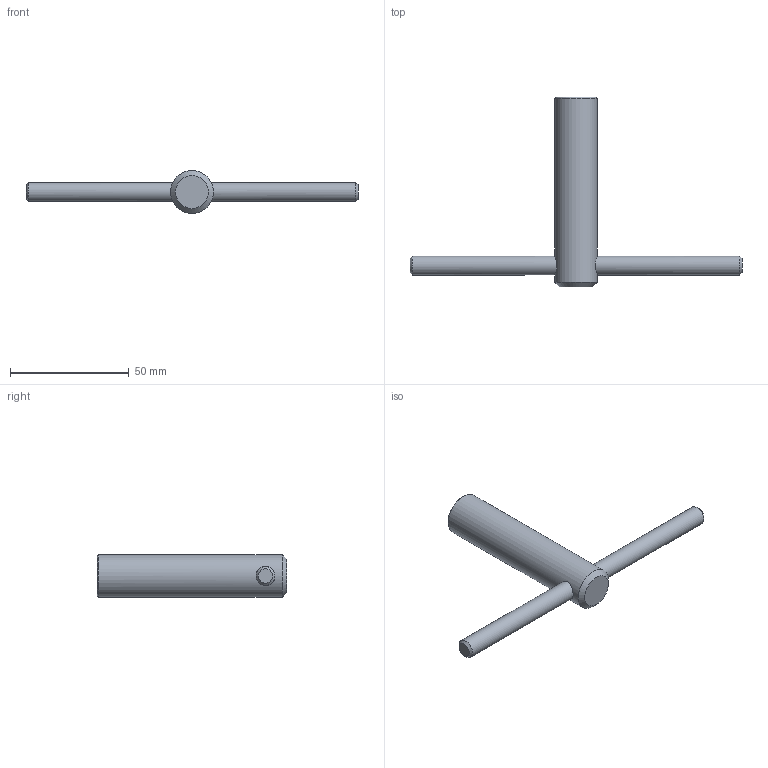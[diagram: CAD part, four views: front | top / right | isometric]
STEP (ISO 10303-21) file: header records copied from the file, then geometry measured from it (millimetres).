
FILE_DESCRIPTION(/* description */ (''),/* implementation_level */ '2;1');
FILE_NAME(/* name */ '\\DC01\Daten\CAD\Standard\Daten\3D-Datenbank\SWS\4 - 3D-CAD-Daten SWS 050-160\SWS063\Step-Daten\ZG-VKS063-SW09.stp',/* time_stamp */ '2022-08-16T11:18:29+02:00',/* author */ ('mbecker'),/* organization */ (''),/* preprocessor_version */ 'ST-DEVELOPER v17',/* originating_system */ 'Autodesk Inventor 2018',/* authorisation */ '');
FILE_SCHEMA (('AUTOMOTIVE_DESIGN { 1 0 10303 214 3 1 1 }'));
Length unit declared in the file: millimetre
Products named in the file (1): ZG-VKS063-SW09
Bounding box: 140 x 80 x 18 mm (x, y, z)
Volume: 25205 mm3; surface area: 8493.2 mm2
Topology: 1 solids, 1 shells, 16 faces, 33 edges, 21 vertices
Faces by surface type: plane 9, cone 4, cylinder 3
Full cylindrical faces by diameter (mm): 8 x2, 18 x1
Entity records: 519 total; most frequent: CARTESIAN_POINT 140, DIRECTION 70, ORIENTED_EDGE 66, EDGE_CURVE 33, AXIS2_PLACEMENT_3D 25, VERTEX_POINT 21, LINE 20, VECTOR 20
